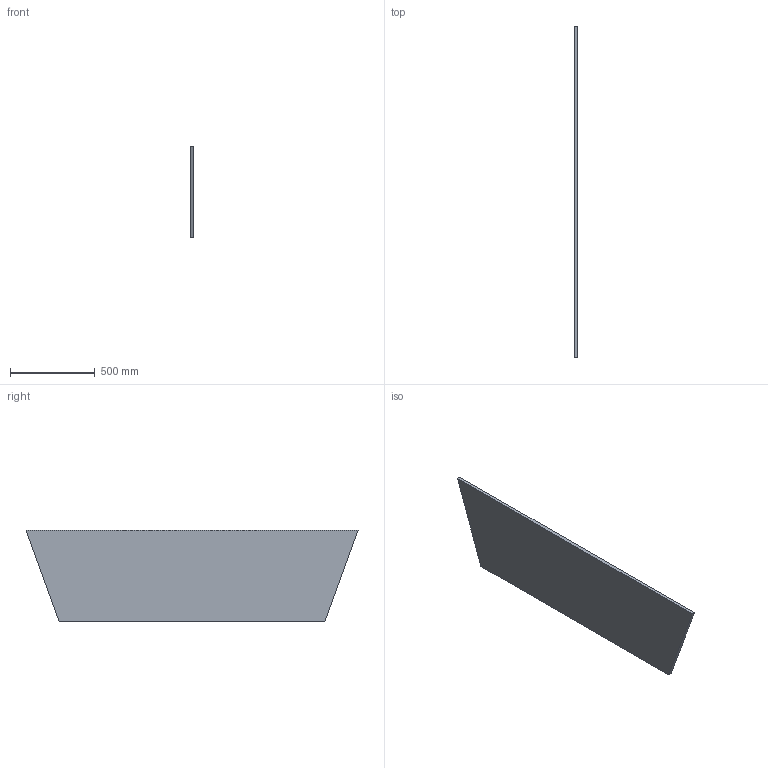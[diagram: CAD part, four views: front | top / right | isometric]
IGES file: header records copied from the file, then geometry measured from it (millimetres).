
Start section:  PTC IGES file: C:\Documents and Settings\Brad\Desktop\LABsub_CAD\mouth_ side_inner.igs
Global section: file name: C:\Documents and Settings\Brad\Desktop\LABsub_CAD\mouth_side_inner.igs; native system: Brad by Parametric Technology Corporation; preprocessor: 2003250; author: Unknown; organization: PTC; date: 040522.160822; units: inch
Bounding box: 19.05 x 1956.2 x 537.03 mm (x, y, z)
Volume: 18013252.7 mm3; surface area: 1980013.5 mm2
Topology: 1 solids, 1 shells, 6 faces, 12 edges, 8 vertices
Faces by surface type: bspline 6
